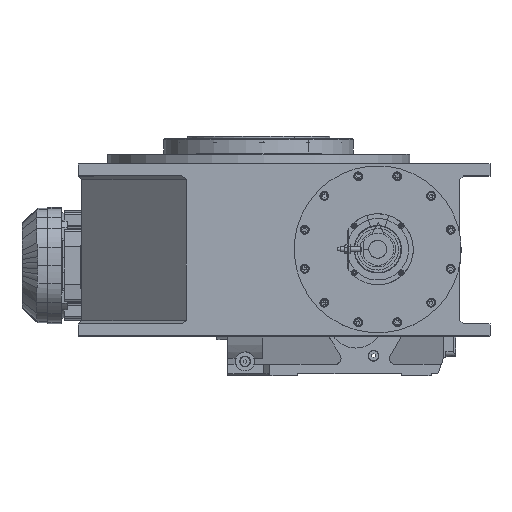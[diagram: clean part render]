
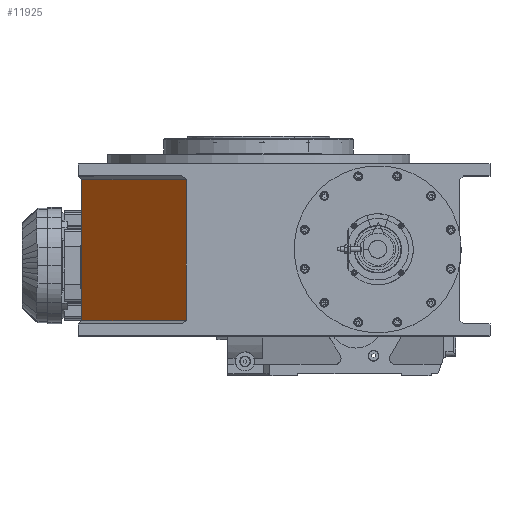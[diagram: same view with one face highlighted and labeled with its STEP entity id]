
A CAD part, top view. The second image highlights one B-rep face of the part: STEP entity #11925.
In plain terms, the highlighted planar face has unit normal (-0.707, 0, 0.707).
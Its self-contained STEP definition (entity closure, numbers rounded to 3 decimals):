
#723 = EDGE_CURVE ( 'NONE', #91368, #63633, #49259, .T. ) ;
#3088 = VECTOR ( 'NONE', #38812, 1000. ) ;
#6085 = DIRECTION ( 'NONE',  ( 0.707, 0., -0.707 ) ) ;
#9767 = ORIENTED_EDGE ( 'NONE', *, *, #42460, .F. ) ;
#9866 = EDGE_CURVE ( 'NONE', #63633, #43140, #62663, .T. ) ;
#10283 = CARTESIAN_POINT ( 'NONE',  ( 182.511, 270., 298.5 ) ) ;
#10832 = FACE_OUTER_BOUND ( 'NONE', #63703, .T. ) ;
#11632 = CARTESIAN_POINT ( 'NONE',  ( 6., 26., 121.989 ) ) ;
#11925 = ADVANCED_FACE ( 'NONE', ( #10832 ), #47368, .F. ) ;
#12936 = CARTESIAN_POINT ( 'NONE',  ( 6., 264., 121.989 ) ) ;
#13139 = CARTESIAN_POINT ( 'NONE',  ( 182.511, 270., 298.5 ) ) ;
#18227 = DIRECTION ( 'NONE',  ( -0.707, 0., -0.707 ) ) ;
#19555 = VECTOR ( 'NONE', #18227, 1000. ) ;
#19873 = VERTEX_POINT ( 'NONE', #29195 ) ;
#20148 = DIRECTION ( 'NONE',  ( -0.707, 0., -0.707 ) ) ;
#26144 = CARTESIAN_POINT ( 'NONE',  ( 6., 264., 121.989 ) ) ;
#27051 = VECTOR ( 'NONE', #87704, 1000. ) ;
#27912 = CARTESIAN_POINT ( 'NONE',  ( 182.511, 26., 298.5 ) ) ;
#28634 = ORIENTED_EDGE ( 'NONE', *, *, #56183, .T. ) ;
#29195 = CARTESIAN_POINT ( 'NONE',  ( 182.511, 264., 298.5 ) ) ;
#32900 = ORIENTED_EDGE ( 'NONE', *, *, #723, .T. ) ;
#36141 = CARTESIAN_POINT ( 'NONE',  ( 6., 270., 121.989 ) ) ;
#38812 = DIRECTION ( 'NONE',  ( 0., -1., 0. ) ) ;
#42460 = EDGE_CURVE ( 'NONE', #19873, #43140, #59506, .T. ) ;
#42612 = ORIENTED_EDGE ( 'NONE', *, *, #9866, .T. ) ;
#43140 = VERTEX_POINT ( 'NONE', #84426 ) ;
#44475 = AXIS2_PLACEMENT_3D ( 'NONE', #13139, #6085, #20148 ) ;
#47368 = PLANE ( 'NONE',  #44475 ) ;
#49259 = LINE ( 'NONE', #36141, #3088 ) ;
#56183 = EDGE_CURVE ( 'NONE', #19873, #91368, #82438, .T. ) ;
#59506 = LINE ( 'NONE', #10283, #27051 ) ;
#62663 = LINE ( 'NONE', #27912, #89040 ) ;
#63633 = VERTEX_POINT ( 'NONE', #11632 ) ;
#63703 = EDGE_LOOP ( 'NONE', ( #9767, #28634, #32900, #42612 ) ) ;
#71091 = DIRECTION ( 'NONE',  ( 0.707, 0., 0.707 ) ) ;
#82438 = LINE ( 'NONE', #26144, #19555 ) ;
#84426 = CARTESIAN_POINT ( 'NONE',  ( 182.511, 26., 298.5 ) ) ;
#87704 = DIRECTION ( 'NONE',  ( 0., -1., 0. ) ) ;
#89040 = VECTOR ( 'NONE', #71091, 1000. ) ;
#91368 = VERTEX_POINT ( 'NONE', #12936 ) ;
